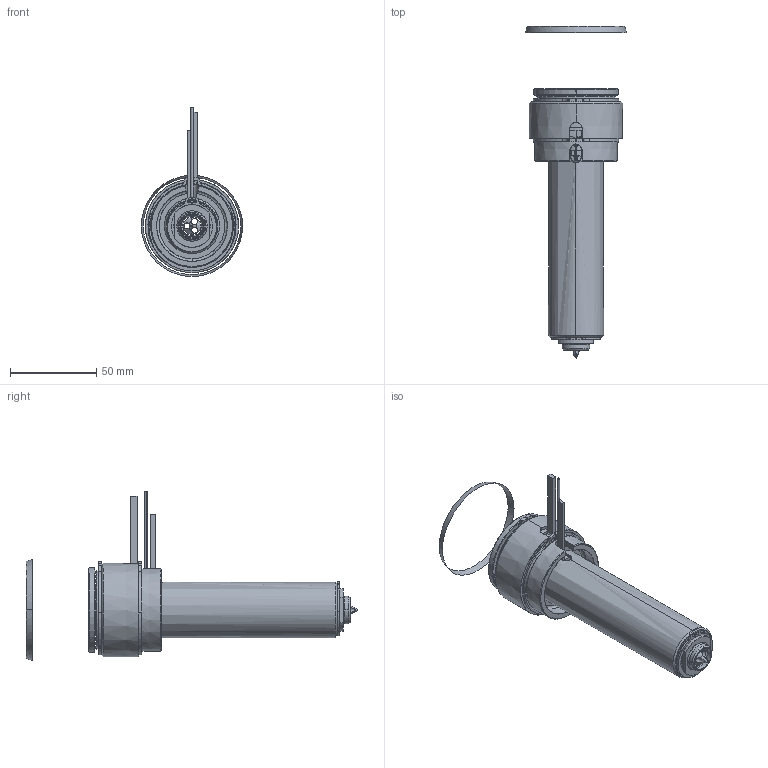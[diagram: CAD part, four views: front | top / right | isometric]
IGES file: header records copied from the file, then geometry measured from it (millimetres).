
Start section: SolidWorks IGES file using analytic representation for surfaces
Global section: file name: C:\Documents and Settings\ws-20\Desktop\TEM\UGEP5503-S-A-1 [Øf-0.80 ØC-13].IGS; native system: SolidWorks 2012; preprocessor: SolidWorks 2012; author: ws-20; date: 120427.081752; units: millimetre
Bounding box: 58.57 x 192.24 x 97.91 mm (x, y, z)
Surface area: 69331.3 mm2 (no closed solid volume)
Topology: 0 solids, 0 shells, 176 faces, 3584 edges, 3584 vertices
Faces by surface type: revolution 115, bspline 61
